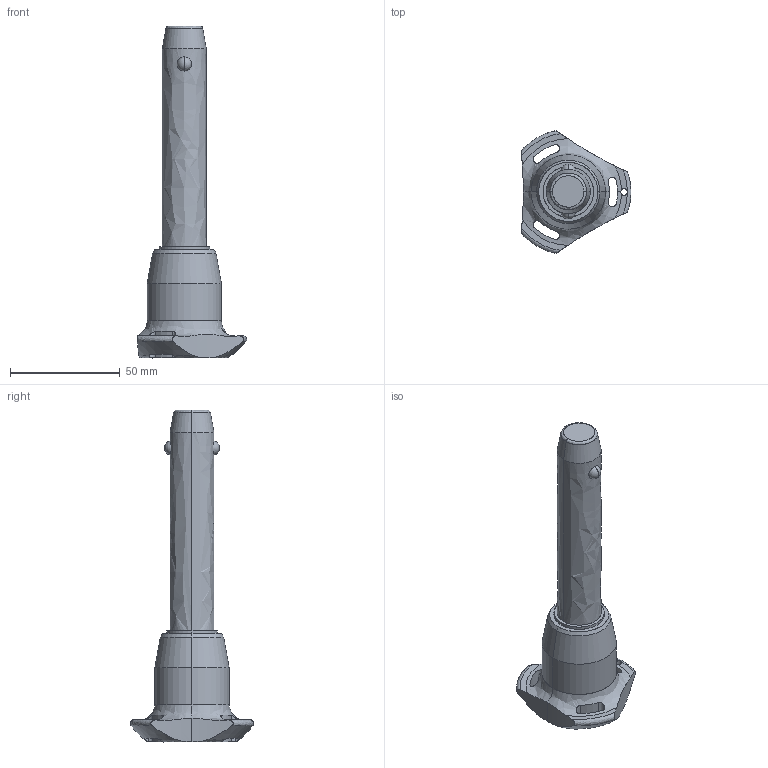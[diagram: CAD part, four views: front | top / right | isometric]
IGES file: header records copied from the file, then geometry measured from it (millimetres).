
Start section: SolidWorks IGES file using analytic representation for surfaces
Global section: file name: C:\Users\ianosborn\Desktop\QR1714_v2\QR1714_v2_20251112_IGES\QR1714.M20-080-S.igs; native system: SolidWorks 2019; preprocessor: SolidWorks 2019; author: IanOsborn; date: 251112.102856; units: millimetre
Bounding box: 50.03 x 56.02 x 151.2 mm (x, y, z)
Surface area: 15993.8 mm2 (no closed solid volume)
Topology: 0 solids, 0 shells, 65 faces, 1310 edges, 1306 vertices
Faces by surface type: revolution 50, bspline 15
